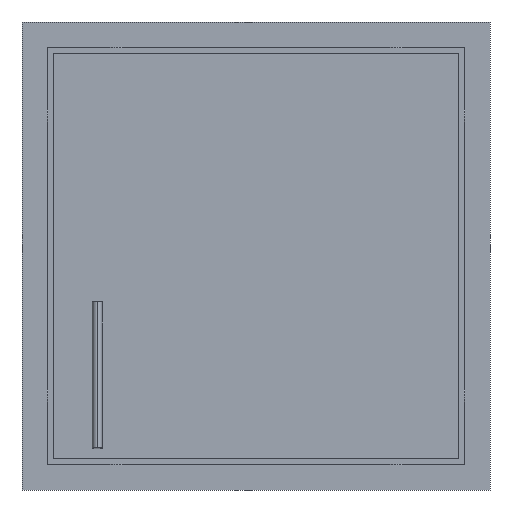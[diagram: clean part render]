
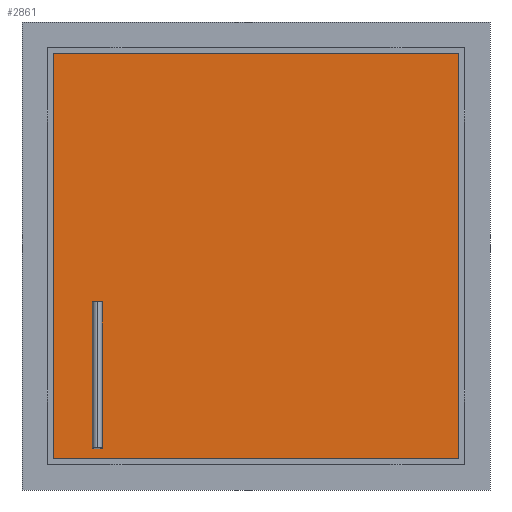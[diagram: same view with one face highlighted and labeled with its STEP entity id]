
A CAD part, front view. The second image highlights one B-rep face of the part: STEP entity #2861.
In plain terms, the highlighted planar face has unit normal (0, -1, 0).
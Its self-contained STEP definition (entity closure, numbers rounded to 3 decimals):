
#2619=DIRECTION('',(1.,0.,0.));
#2620=VECTOR('',#2619,1048.);
#2621=CARTESIAN_POINT('',(-524.,78.,515.));
#2622=LINE('',#2621,#2620);
#2627=DIRECTION('',(0.,0.,-1.));
#2628=VECTOR('',#2627,1048.);
#2629=CARTESIAN_POINT('',(524.,78.,515.));
#2630=LINE('',#2629,#2628);
#2765=DIRECTION('',(0.,0.,1.));
#2766=VECTOR('',#2765,1048.);
#2767=CARTESIAN_POINT('',(-524.,78.,-533.));
#2768=LINE('',#2767,#2766);
#2773=DIRECTION('',(-1.,0.,0.));
#2774=VECTOR('',#2773,1048.);
#2775=CARTESIAN_POINT('',(524.,78.,-533.));
#2776=LINE('',#2775,#2774);
#2823=CARTESIAN_POINT('',(524.,78.,515.));
#2824=CARTESIAN_POINT('',(524.,78.,-533.));
#2825=VERTEX_POINT('',#2823);
#2826=VERTEX_POINT('',#2824);
#2827=CARTESIAN_POINT('',(-524.,78.,-533.));
#2828=VERTEX_POINT('',#2827);
#2829=CARTESIAN_POINT('',(-524.,78.,515.));
#2830=VERTEX_POINT('',#2829);
#2847=CARTESIAN_POINT('',(0.,78.,0.));
#2848=DIRECTION('',(0.,1.,0.));
#2849=DIRECTION('',(1.,0.,0.));
#2850=AXIS2_PLACEMENT_3D('',#2847,#2848,#2849);
#2851=PLANE('',#2850);
#2853=ORIENTED_EDGE('',*,*,#2852,.T.);
#2855=ORIENTED_EDGE('',*,*,#2854,.T.);
#2857=ORIENTED_EDGE('',*,*,#2856,.T.);
#2858=ORIENTED_EDGE('',*,*,#2836,.T.);
#2859=EDGE_LOOP('',(#2853,#2855,#2857,#2858));
#2860=FACE_OUTER_BOUND('',#2859,.F.);
#2861=ADVANCED_FACE('',(#2860),#2851,.F.);
#2836=EDGE_CURVE('',#2830,#2825,#2622,.T.);
#2852=EDGE_CURVE('',#2825,#2826,#2630,.T.);
#2854=EDGE_CURVE('',#2826,#2828,#2776,.T.);
#2856=EDGE_CURVE('',#2828,#2830,#2768,.T.);
